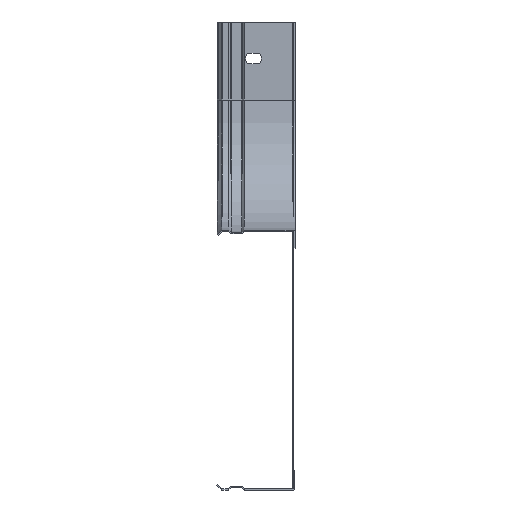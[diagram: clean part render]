
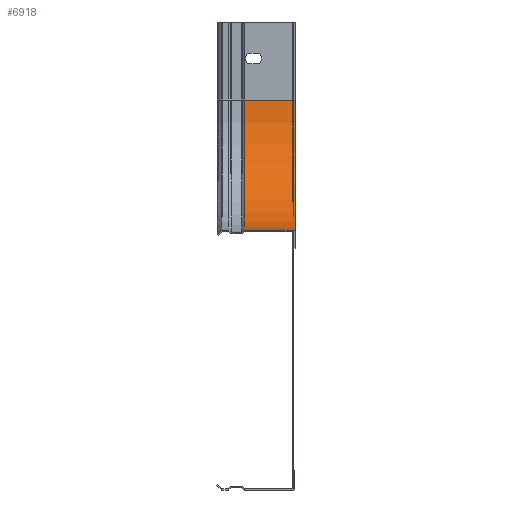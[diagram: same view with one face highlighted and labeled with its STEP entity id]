
A CAD part, left-side view. The second image highlights one B-rep face of the part: STEP entity #6918.
In plain terms, the highlighted cylindrical face has radius 100 mm (diameter 200 mm), a partial arc.
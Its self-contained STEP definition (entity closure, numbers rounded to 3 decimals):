
#20 = CYLINDRICAL_SURFACE ( 'NONE', #5068, 100. ) ;
#72 = CARTESIAN_POINT ( 'NONE',  ( -60., 0., 160. ) ) ;
#594 = LINE ( 'NONE', #72, #6159 ) ;
#650 = CARTESIAN_POINT ( 'NONE',  ( -60., 0., 60. ) ) ;
#665 = EDGE_CURVE ( 'NONE', #5966, #5379, #3972, .T. ) ;
#871 = CARTESIAN_POINT ( 'NONE',  ( -60., 39., 160. ) ) ;
#996 = DIRECTION ( 'NONE',  ( 0., -1., 0. ) ) ;
#1263 = VERTEX_POINT ( 'NONE', #871 ) ;
#1339 = EDGE_LOOP ( 'NONE', ( #6260, #2756, #4611, #3479 ) ) ;
#2132 = CIRCLE ( 'NONE', #4727, 100. ) ;
#2204 = CARTESIAN_POINT ( 'NONE',  ( -160., 0., 60. ) ) ;
#2287 = CARTESIAN_POINT ( 'NONE',  ( -60., 0., 60. ) ) ;
#2756 = ORIENTED_EDGE ( 'NONE', *, *, #4153, .T. ) ;
#2824 = DIRECTION ( 'NONE',  ( 0., 1., 0. ) ) ;
#2911 = DIRECTION ( 'NONE',  ( 0., 0., -1. ) ) ;
#3435 = CARTESIAN_POINT ( 'NONE',  ( -160., 39., 60. ) ) ;
#3479 = ORIENTED_EDGE ( 'NONE', *, *, #7277, .F. ) ;
#3904 = AXIS2_PLACEMENT_3D ( 'NONE', #650, #6255, #2911 ) ;
#3945 = FACE_OUTER_BOUND ( 'NONE', #1339, .T. ) ;
#3972 = LINE ( 'NONE', #2204, #6832 ) ;
#4153 = EDGE_CURVE ( 'NONE', #4202, #5966, #5440, .T. ) ;
#4202 = VERTEX_POINT ( 'NONE', #4752 ) ;
#4531 = DIRECTION ( 'NONE',  ( 0., -1., 0. ) ) ;
#4611 = ORIENTED_EDGE ( 'NONE', *, *, #665, .T. ) ;
#4727 = AXIS2_PLACEMENT_3D ( 'NONE', #5036, #996, #7278 ) ;
#4752 = CARTESIAN_POINT ( 'NONE',  ( -60., 0., 160. ) ) ;
#5036 = CARTESIAN_POINT ( 'NONE',  ( -60., 39., 60. ) ) ;
#5068 = AXIS2_PLACEMENT_3D ( 'NONE', #2287, #4531, #6771 ) ;
#5102 = CARTESIAN_POINT ( 'NONE',  ( -160., 0., 60. ) ) ;
#5379 = VERTEX_POINT ( 'NONE', #3435 ) ;
#5440 = CIRCLE ( 'NONE', #3904, 100. ) ;
#5966 = VERTEX_POINT ( 'NONE', #5102 ) ;
#6066 = EDGE_CURVE ( 'NONE', #4202, #1263, #594, .T. ) ;
#6110 = DIRECTION ( 'NONE',  ( 0., 1., 0. ) ) ;
#6159 = VECTOR ( 'NONE', #2824, 1000. ) ;
#6255 = DIRECTION ( 'NONE',  ( 0., -1., 0. ) ) ;
#6260 = ORIENTED_EDGE ( 'NONE', *, *, #6066, .F. ) ;
#6771 = DIRECTION ( 'NONE',  ( 0., 0., -1. ) ) ;
#6832 = VECTOR ( 'NONE', #6110, 1000. ) ;
#6918 = ADVANCED_FACE ( 'NONE', ( #3945 ), #20, .F. ) ;
#7277 = EDGE_CURVE ( 'NONE', #1263, #5379, #2132, .T. ) ;
#7278 = DIRECTION ( 'NONE',  ( 0., 0., -1. ) ) ;
